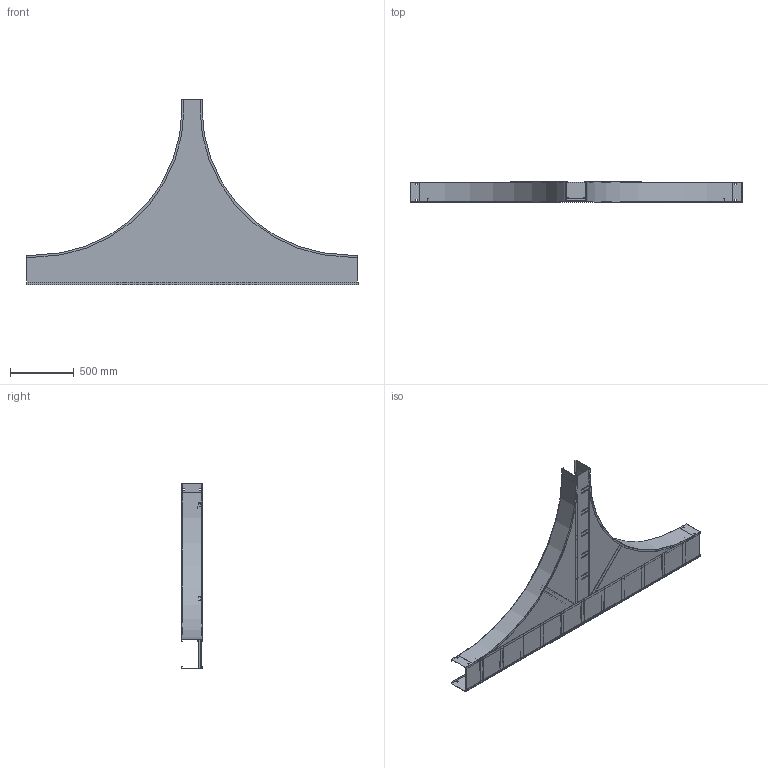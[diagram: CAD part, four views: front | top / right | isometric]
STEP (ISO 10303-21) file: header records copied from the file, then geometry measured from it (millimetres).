
FILE_DESCRIPTION((''),'2;1');
FILE_NAME('AUF60906SRT48_ASM','2010-02-12T',('erouzier'),(''),'PRO/ENGINEER BY PARAMETRIC TECHNOLOGY CORPORATION, 2008510','PRO/ENGINEER BY PARAMETRIC TECHNOLOGY CORPORATION, 2008510','');
FILE_SCHEMA(('CONFIG_CONTROL_DESIGN'));
Length unit declared in the file: inch
Products named in the file (23): CDS001321-6-90-45-I; CDS013843-6-102; CDS000495_GEN_AF9; CDS002159L9_AF8; CDS002159L9_AF9; CDS002159L9_AF10; CDS002159L9_AF11; CDS002159L9; CDS002159L9_AF12; CDS002159L9_AF13; CDS002159L9_AF14; CDS002159L9_AF15; CDS000495_GEN_AF10; CDS000495_GEN_AF11; CDS002159L24_AF4; CDS002159L24_AF5; CDS002159L6_AF4; CDS002159L6_AF5; CDS002159L6; CDS002159L6_AF6; CDS002159L6_AF7; CDS005002-9-48-6; AUF60906SRT48_ASM
Assembly tree (25 placements, depth 2):
  AUF60906SRT48_ASM
    CDS001321-6-90-45-I  x2
    CDS013843-6-102
    CDS000495_GEN_AF9
    CDS002159L9_AF8
    CDS002159L9_AF9
    CDS002159L9_AF10
    CDS002159L9_AF11
    CDS002159L9  x3
    CDS002159L9_AF12
    CDS002159L9_AF13
    CDS002159L9_AF14
    CDS002159L9_AF15
    CDS000495_GEN_AF10
    CDS000495_GEN_AF11
    CDS002159L24_AF4
    CDS002159L24_AF5
    CDS002159L6_AF4
    CDS002159L6_AF5
    CDS002159L6
    CDS002159L6_AF6
    CDS002159L6_AF7
    CDS005002-9-48-6
Bounding box: 2595.88 x 157.23 x 1452.63 mm (x, y, z)
Volume: 5547440.8 mm3; surface area: 6683168.4 mm2
Topology: 25 solids, 25 shells, 676 faces, 1878 edges, 1252 vertices
Faces by surface type: plane 468, cylinder 208
Entity records: 19252 total; most frequent: CARTESIAN_POINT 3476, ORIENTED_EDGE 3228, DIRECTION 3194, EDGE_CURVE 1614, VECTOR 1250, LINE 1250, VERTEX_POINT 1076, AXIS2_PLACEMENT_3D 972
